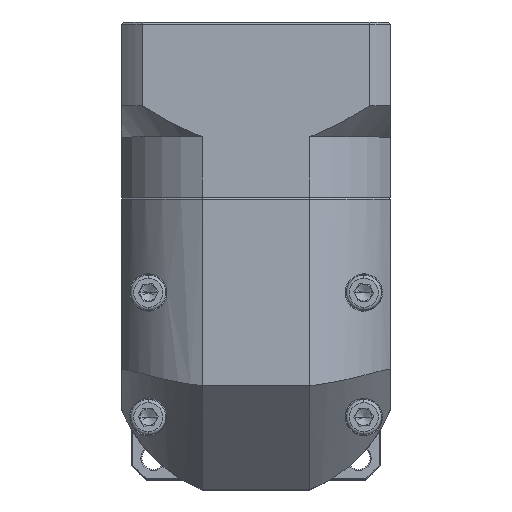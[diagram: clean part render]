
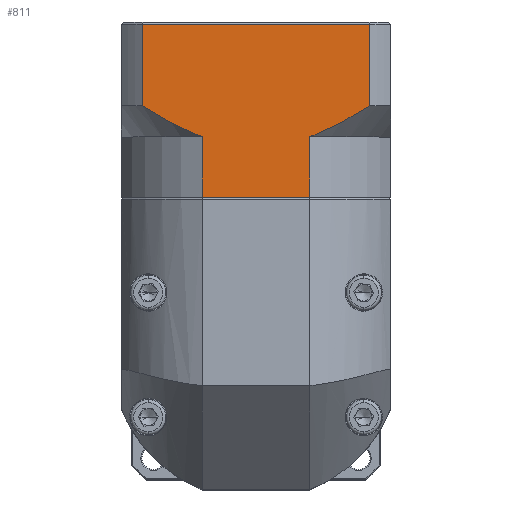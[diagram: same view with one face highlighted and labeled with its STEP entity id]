
A CAD part, top view. The second image highlights one B-rep face of the part: STEP entity #811.
In plain terms, the highlighted planar face has unit normal (0, 0, 1).
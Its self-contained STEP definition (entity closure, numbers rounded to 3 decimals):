
#811 = ADVANCED_FACE ( 'NONE', ( #107762 ), #92808, .F. ) ;
#1703 = ORIENTED_EDGE ( 'NONE', *, *, #71027, .T. ) ;
#2220 = CARTESIAN_POINT ( 'NONE',  ( -33.83, 111.726, 74.497 ) ) ;
#2371 = VERTEX_POINT ( 'NONE', #2220 ) ;
#4278 = DIRECTION ( 'NONE',  ( 0., 1., 0. ) ) ;
#4787 = CARTESIAN_POINT ( 'NONE',  ( -41.993, 87.272, 74.497 ) ) ;
#5263 = ORIENTED_EDGE ( 'NONE', *, *, #34891, .T. ) ;
#6097 = CARTESIAN_POINT ( 'NONE',  ( -88.602, 92.026, 74.497 ) ) ;
#7341 = VECTOR ( 'NONE', #88488, 1000. ) ;
#14539 = CARTESIAN_POINT ( 'NONE',  ( -48.226, 84.526, 74.497 ) ) ;
#15052 = CARTESIAN_POINT ( 'NONE',  ( -86.313, 90.577, 74.497 ) ) ;
#16510 = ORIENTED_EDGE ( 'NONE', *, *, #89238, .F. ) ;
#17373 = CARTESIAN_POINT ( 'NONE',  ( -76.745, 85.468, 74.497 ) ) ;
#17927 = VECTOR ( 'NONE', #43765, 1000. ) ;
#19539 = VERTEX_POINT ( 'NONE', #24627 ) ;
#20188 = LINE ( 'NONE', #21846, #68812 ) ;
#20355 = CARTESIAN_POINT ( 'NONE',  ( -48.226, 84.526, 74.497 ) ) ;
#20359 = EDGE_CURVE ( 'NONE', #71723, #63910, #65076, .T. ) ;
#20591 = CARTESIAN_POINT ( 'NONE',  ( -88.602, 84.526, 74.497 ) ) ;
#21846 = CARTESIAN_POINT ( 'NONE',  ( -93.716, 111.726, 74.497 ) ) ;
#23376 = CARTESIAN_POINT ( 'NONE',  ( -46.945, 85.017, 74.497 ) ) ;
#24627 = CARTESIAN_POINT ( 'NONE',  ( -48.226, 70.026, 74.497 ) ) ;
#24654 = CARTESIAN_POINT ( 'NONE',  ( -74.207, 84.526, 74.497 ) ) ;
#25115 = EDGE_CURVE ( 'NONE', #98484, #63896, #67902, .T. ) ;
#26051 = EDGE_CURVE ( 'NONE', #2371, #63896, #20188, .T. ) ;
#26206 = CARTESIAN_POINT ( 'NONE',  ( -74.207, 84.526, 74.497 ) ) ;
#26507 = LINE ( 'NONE', #39965, #59815 ) ;
#26560 = ORIENTED_EDGE ( 'NONE', *, *, #20359, .F. ) ;
#34891 = EDGE_CURVE ( 'NONE', #71723, #19539, #70594, .T. ) ;
#35952 = CARTESIAN_POINT ( 'NONE',  ( -82.792, 88.523, 74.497 ) ) ;
#39311 = CARTESIAN_POINT ( 'NONE',  ( -93.716, 70.026, 74.497 ) ) ;
#39965 = CARTESIAN_POINT ( 'NONE',  ( -48.226, 84.526, 74.497 ) ) ;
#40784 = DIRECTION ( 'NONE',  ( 0., -1., 0. ) ) ;
#41312 = CARTESIAN_POINT ( 'NONE',  ( -45.683, 85.543, 74.497 ) ) ;
#42463 = EDGE_CURVE ( 'NONE', #85392, #19539, #26507, .T. ) ;
#42994 = CARTESIAN_POINT ( 'NONE',  ( -87.464, 91.293, 74.497 ) ) ;
#43765 = DIRECTION ( 'NONE',  ( 0., 1., 0. ) ) ;
#44531 = CARTESIAN_POINT ( 'NONE',  ( -79.197, 86.613, 74.497 ) ) ;
#46961 = VECTOR ( 'NONE', #48629, 1000. ) ;
#48195 = ORIENTED_EDGE ( 'NONE', *, *, #26051, .T. ) ;
#48629 = DIRECTION ( 'NONE',  ( 1., 0., 0. ) ) ;
#55850 = LINE ( 'NONE', #106382, #7341 ) ;
#58274 = DIRECTION ( 'NONE',  ( 0., 1., 0. ) ) ;
#59815 = VECTOR ( 'NONE', #40784, 1000. ) ;
#62806 = B_SPLINE_CURVE_WITH_KNOTS ( 'NONE', 3,
 ( #14539, #76578, #23376, #41312, #103355, #68082, #4787, #76966, #85862, #66922 ),
 .UNSPECIFIED., .F., .F.,
 ( 4, 2, 2, 2, 4 ),
 ( 0.101, 0.103, 0.105, 0.109, 0.117 ),
 .UNSPECIFIED. ) ;
#63021 = CARTESIAN_POINT ( 'NONE',  ( -33.83, 92.026, 74.497 ) ) ;
#63896 = VERTEX_POINT ( 'NONE', #111637 ) ;
#63910 = VERTEX_POINT ( 'NONE', #85191 ) ;
#65076 = LINE ( 'NONE', #24654, #17927 ) ;
#65079 = VERTEX_POINT ( 'NONE', #63021 ) ;
#65367 = EDGE_CURVE ( 'NONE', #85392, #65079, #62806, .T. ) ;
#66922 = CARTESIAN_POINT ( 'NONE',  ( -33.83, 92.026, 74.497 ) ) ;
#67902 = LINE ( 'NONE', #20591, #87238 ) ;
#68082 = CARTESIAN_POINT ( 'NONE',  ( -43.206, 86.667, 74.497 ) ) ;
#68812 = VECTOR ( 'NONE', #111526, 1000. ) ;
#70464 = ORIENTED_EDGE ( 'NONE', *, *, #25115, .F. ) ;
#70594 = LINE ( 'NONE', #39311, #46961 ) ;
#71027 = EDGE_CURVE ( 'NONE', #98484, #63910, #72413, .T. ) ;
#71723 = VERTEX_POINT ( 'NONE', #113465 ) ;
#72413 = B_SPLINE_CURVE_WITH_KNOTS ( 'NONE', 3,
 ( #6097, #42994, #15052, #105808, #35952, #44531, #17373, #26206 ),
 .UNSPECIFIED., .F., .F.,
 ( 4, 2, 2, 4 ),
 ( 0.058, 0.062, 0.066, 0.074 ),
 .UNSPECIFIED. ) ;
#72955 = AXIS2_PLACEMENT_3D ( 'NONE', #93994, #103678, #58274 ) ;
#75828 = ORIENTED_EDGE ( 'NONE', *, *, #65367, .T. ) ;
#76578 = CARTESIAN_POINT ( 'NONE',  ( -47.584, 84.764, 74.497 ) ) ;
#76966 = CARTESIAN_POINT ( 'NONE',  ( -38.412, 89.177, 74.497 ) ) ;
#81026 = ORIENTED_EDGE ( 'NONE', *, *, #42463, .F. ) ;
#85191 = CARTESIAN_POINT ( 'NONE',  ( -74.207, 84.526, 74.497 ) ) ;
#85392 = VERTEX_POINT ( 'NONE', #20355 ) ;
#85862 = CARTESIAN_POINT ( 'NONE',  ( -36.098, 90.564, 74.497 ) ) ;
#87238 = VECTOR ( 'NONE', #4278, 1000. ) ;
#88488 = DIRECTION ( 'NONE',  ( 0., -1., 0. ) ) ;
#89238 = EDGE_CURVE ( 'NONE', #2371, #65079, #55850, .T. ) ;
#92808 = PLANE ( 'NONE',  #72955 ) ;
#93994 = CARTESIAN_POINT ( 'NONE',  ( -93.716, 112.226, 74.497 ) ) ;
#94508 = EDGE_LOOP ( 'NONE', ( #16510, #48195, #70464, #1703, #26560, #5263, #81026, #75828 ) ) ;
#98484 = VERTEX_POINT ( 'NONE', #110408 ) ;
#103355 = CARTESIAN_POINT ( 'NONE',  ( -45.059, 85.816, 74.497 ) ) ;
#103678 = DIRECTION ( 'NONE',  ( 0., 0., -1. ) ) ;
#105808 = CARTESIAN_POINT ( 'NONE',  ( -83.978, 89.193, 74.497 ) ) ;
#106382 = CARTESIAN_POINT ( 'NONE',  ( -33.83, 84.526, 74.497 ) ) ;
#107762 = FACE_OUTER_BOUND ( 'NONE', #94508, .T. ) ;
#110408 = CARTESIAN_POINT ( 'NONE',  ( -88.602, 92.026, 74.497 ) ) ;
#111526 = DIRECTION ( 'NONE',  ( -1., 0., 0. ) ) ;
#111637 = CARTESIAN_POINT ( 'NONE',  ( -88.602, 111.726, 74.497 ) ) ;
#113465 = CARTESIAN_POINT ( 'NONE',  ( -74.207, 70.026, 74.497 ) ) ;
